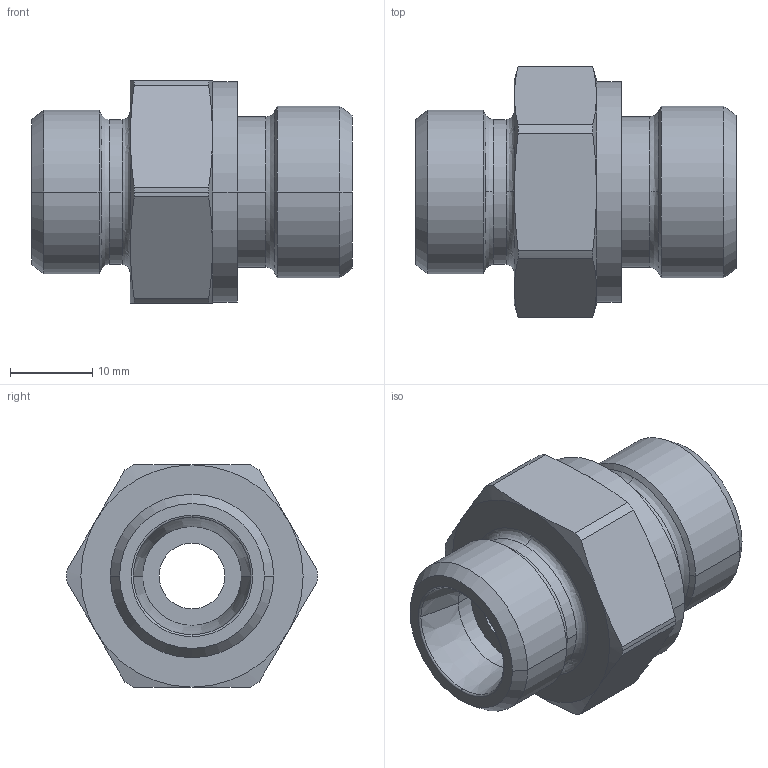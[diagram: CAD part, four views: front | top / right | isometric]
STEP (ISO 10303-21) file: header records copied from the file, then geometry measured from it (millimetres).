
FILE_DESCRIPTION((''),'2;1');
FILE_NAME('100535.stp','2007-10-30T14:35:18',(''),(''),'AutoCAD STEP 2000i','AutoCAD 2000i',', , ');
FILE_SCHEMA(('CONFIG_CONTROL_DESIGN'));
Length unit declared in the file: millimetre
Products named in the file (2): 100535.0; CHIAVE SMUSSATA#0
Assembly tree (1 placements, depth 2):
  100535.0
    CHIAVE SMUSSATA#0
Bounding box: 39 x 30.5 x 27 mm (x, y, z)
Volume: 12902.7 mm3; surface area: 5170.2 mm2
Topology: 1 solids, 1 shells, 75 faces, 185 edges, 117 vertices
Faces by surface type: cylinder 24, cone 24, plane 13, bspline 12, torus 2
Entity records: 2835 total; most frequent: CARTESIAN_POINT 955, DIRECTION 410, ORIENTED_EDGE 370, EDGE_CURVE 185, AXIS2_PLACEMENT_3D 184, CIRCLE 119, VERTEX_POINT 117, EDGE_LOOP 82
